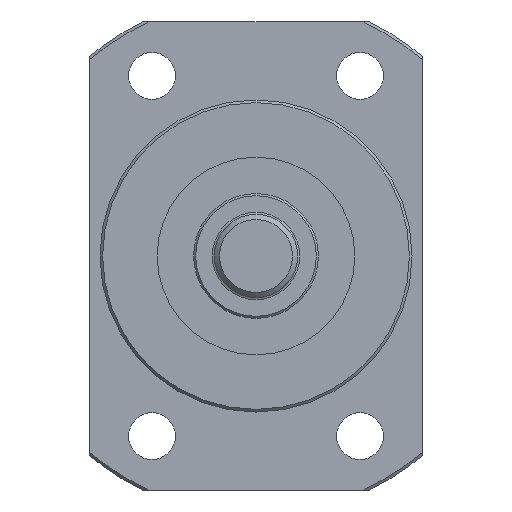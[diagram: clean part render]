
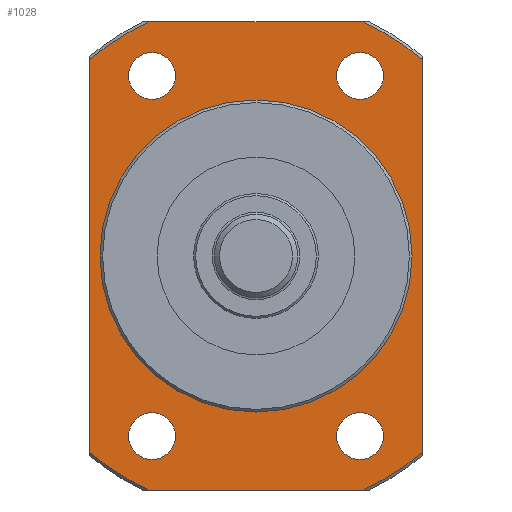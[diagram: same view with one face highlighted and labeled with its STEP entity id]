
A CAD part, left-side view. The second image highlights one B-rep face of the part: STEP entity #1028.
In plain terms, the highlighted planar face has unit normal (-1, 0, 0).
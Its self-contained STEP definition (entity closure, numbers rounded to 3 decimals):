
#117=LINE('',#1888,#141);
#118=LINE('',#1889,#142);
#119=LINE('',#1890,#143);
#120=LINE('',#1891,#144);
#141=VECTOR('',#1472,1000.);
#142=VECTOR('',#1473,1000.);
#143=VECTOR('',#1474,1000.);
#144=VECTOR('',#1475,1000.);
#286=ORIENTED_EDGE('',*,*,#474,.T.);
#287=ORIENTED_EDGE('',*,*,#475,.T.);
#288=ORIENTED_EDGE('',*,*,#476,.T.);
#289=ORIENTED_EDGE('',*,*,#477,.T.);
#290=ORIENTED_EDGE('',*,*,#478,.T.);
#291=ORIENTED_EDGE('',*,*,#463,.F.);
#292=ORIENTED_EDGE('',*,*,#479,.T.);
#293=ORIENTED_EDGE('',*,*,#465,.F.);
#294=ORIENTED_EDGE('',*,*,#480,.T.);
#295=ORIENTED_EDGE('',*,*,#469,.F.);
#296=ORIENTED_EDGE('',*,*,#481,.T.);
#297=ORIENTED_EDGE('',*,*,#471,.F.);
#298=ORIENTED_EDGE('',*,*,#482,.T.);
#463=EDGE_CURVE('',#568,#569,#648,.T.);
#465=EDGE_CURVE('',#570,#571,#649,.T.);
#469=EDGE_CURVE('',#572,#573,#650,.T.);
#471=EDGE_CURVE('',#574,#575,#651,.T.);
#474=EDGE_CURVE('',#576,#576,#652,.T.);
#475=EDGE_CURVE('',#577,#577,#653,.T.);
#476=EDGE_CURVE('',#578,#578,#654,.T.);
#477=EDGE_CURVE('',#579,#579,#655,.T.);
#478=EDGE_CURVE('',#580,#580,#656,.T.);
#479=EDGE_CURVE('',#568,#571,#117,.T.);
#480=EDGE_CURVE('',#570,#573,#118,.T.);
#481=EDGE_CURVE('',#572,#575,#119,.T.);
#482=EDGE_CURVE('',#574,#569,#120,.T.);
#568=VERTEX_POINT('',#1834);
#569=VERTEX_POINT('',#1836);
#570=VERTEX_POINT('',#1843);
#571=VERTEX_POINT('',#1844);
#572=VERTEX_POINT('',#1858);
#573=VERTEX_POINT('',#1860);
#574=VERTEX_POINT('',#1867);
#575=VERTEX_POINT('',#1868);
#576=VERTEX_POINT('',#1879);
#577=VERTEX_POINT('',#1881);
#578=VERTEX_POINT('',#1883);
#579=VERTEX_POINT('',#1885);
#580=VERTEX_POINT('',#1887);
#648=CIRCLE('',#1178,24.75);
#649=CIRCLE('',#1180,24.75);
#650=CIRCLE('',#1182,24.75);
#651=CIRCLE('',#1184,24.75);
#652=CIRCLE('',#1186,14.7);
#653=CIRCLE('',#1187,2.25);
#654=CIRCLE('',#1188,2.25);
#655=CIRCLE('',#1189,2.25);
#656=CIRCLE('',#1190,2.25);
#753=EDGE_LOOP('',(#286));
#754=EDGE_LOOP('',(#287));
#755=EDGE_LOOP('',(#288));
#756=EDGE_LOOP('',(#289));
#757=EDGE_LOOP('',(#290));
#758=EDGE_LOOP('',(#291,#292,#293,#294,#295,#296,#297,#298));
#893=FACE_BOUND('',#753,.T.);
#894=FACE_BOUND('',#754,.T.);
#895=FACE_BOUND('',#755,.T.);
#896=FACE_BOUND('',#756,.T.);
#897=FACE_BOUND('',#757,.T.);
#898=FACE_BOUND('',#758,.T.);
#968=PLANE('',#1185);
#1028=ADVANCED_FACE('',(#893,#894,#895,#896,#897,#898),#968,.T.);
#1178=AXIS2_PLACEMENT_3D('',#1835,#1446,#1447);
#1180=AXIS2_PLACEMENT_3D('',#1842,#1450,#1451);
#1182=AXIS2_PLACEMENT_3D('',#1859,#1454,#1455);
#1184=AXIS2_PLACEMENT_3D('',#1866,#1458,#1459);
#1185=AXIS2_PLACEMENT_3D('',#1877,#1460,#1461);
#1186=AXIS2_PLACEMENT_3D('',#1878,#1462,#1463);
#1187=AXIS2_PLACEMENT_3D('',#1880,#1464,#1465);
#1188=AXIS2_PLACEMENT_3D('',#1882,#1466,#1467);
#1189=AXIS2_PLACEMENT_3D('',#1884,#1468,#1469);
#1190=AXIS2_PLACEMENT_3D('',#1886,#1470,#1471);
#1446=DIRECTION('',(1.,0.,0.));
#1447=DIRECTION('',(0.,0.,-1.));
#1450=DIRECTION('',(1.,0.,0.));
#1451=DIRECTION('',(0.,0.,-1.));
#1454=DIRECTION('',(1.,0.,0.));
#1455=DIRECTION('',(0.,0.,-1.));
#1458=DIRECTION('',(1.,0.,0.));
#1459=DIRECTION('',(0.,0.,-1.));
#1460=DIRECTION('',(-1.,0.,0.));
#1461=DIRECTION('',(0.,0.,1.));
#1462=DIRECTION('',(1.,0.,0.));
#1463=DIRECTION('',(0.,0.,-1.));
#1464=DIRECTION('',(1.,0.,0.));
#1465=DIRECTION('',(0.,0.,-1.));
#1466=DIRECTION('',(1.,0.,0.));
#1467=DIRECTION('',(0.,0.,-1.));
#1468=DIRECTION('',(1.,0.,0.));
#1469=DIRECTION('',(0.,0.,-1.));
#1470=DIRECTION('',(1.,0.,0.));
#1471=DIRECTION('',(0.,0.,-1.));
#1472=DIRECTION('',(0.,1.,0.));
#1473=DIRECTION('',(0.,0.,-1.));
#1474=DIRECTION('',(0.,-1.,0.));
#1475=DIRECTION('',(0.,0.,1.));
#1834=CARTESIAN_POINT('',(30.,-10.311,22.5));
#1835=CARTESIAN_POINT('',(30.,0.,0.));
#1836=CARTESIAN_POINT('',(30.,-16.,18.883));
#1842=CARTESIAN_POINT('',(30.,0.,0.));
#1843=CARTESIAN_POINT('',(30.,16.,18.883));
#1844=CARTESIAN_POINT('',(30.,10.311,22.5));
#1858=CARTESIAN_POINT('',(30.,10.311,-22.5));
#1859=CARTESIAN_POINT('',(30.,0.,0.));
#1860=CARTESIAN_POINT('',(30.,16.,-18.883));
#1866=CARTESIAN_POINT('',(30.,0.,0.));
#1867=CARTESIAN_POINT('',(30.,-16.,-18.883));
#1868=CARTESIAN_POINT('',(30.,-10.311,-22.5));
#1877=CARTESIAN_POINT('',(30.,24.75,0.));
#1878=CARTESIAN_POINT('',(30.,0.,0.));
#1879=CARTESIAN_POINT('',(30.,0.,-14.7));
#1880=CARTESIAN_POINT('',(30.,10.,17.321));
#1881=CARTESIAN_POINT('',(30.,10.,15.071));
#1882=CARTESIAN_POINT('',(30.,-10.,17.321));
#1883=CARTESIAN_POINT('',(30.,-10.,15.071));
#1884=CARTESIAN_POINT('',(30.,-10.,-17.321));
#1885=CARTESIAN_POINT('',(30.,-10.,-19.571));
#1886=CARTESIAN_POINT('',(30.,10.,-17.321));
#1887=CARTESIAN_POINT('',(30.,10.,-19.571));
#1888=CARTESIAN_POINT('',(30.,24.75,22.5));
#1889=CARTESIAN_POINT('',(30.,16.,0.));
#1890=CARTESIAN_POINT('',(30.,24.75,-22.5));
#1891=CARTESIAN_POINT('',(30.,-16.,0.));
